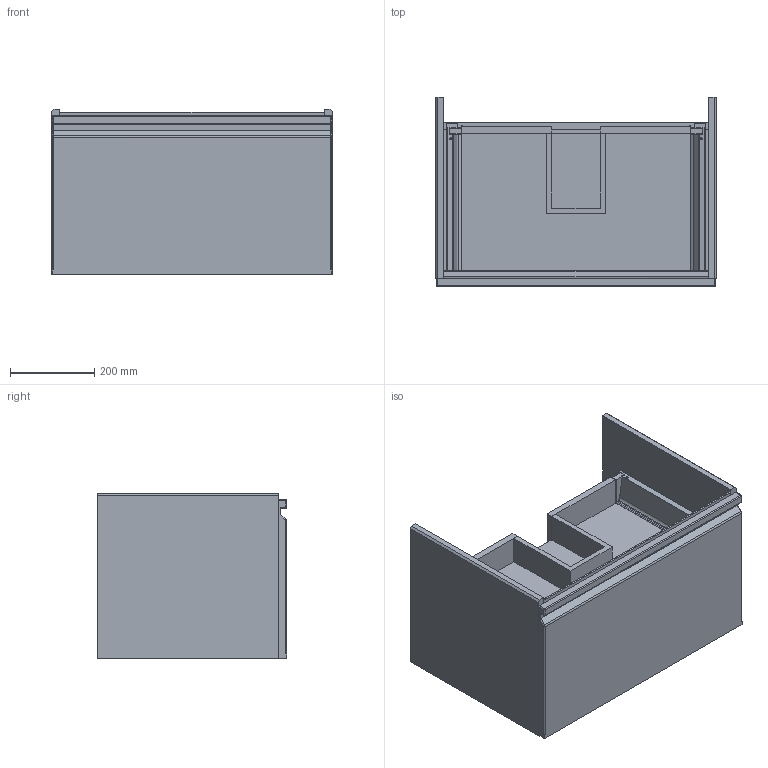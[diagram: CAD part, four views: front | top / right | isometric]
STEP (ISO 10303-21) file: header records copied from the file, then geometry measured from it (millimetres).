
FILE_DESCRIPTION(/* description */ (''),/* implementation_level */ '2;1');
FILE_NAME(/* name */ '3DB9F6~1',/* time_stamp */ '2018-05-14T09:08:57+02:00',/* author */ (''),/* organization */ (''),/* preprocessor_version */ 'ST-DEVELOPER v15',/* originating_system */ '',/* authorisation */ '');
FILE_SCHEMA (('AUTOMOTIVE_DESIGN'));
Length unit declared in the file: millimetre
Products named in the file (28): Document; Parte292; Parte290; Parte280; Parte278; Parte276; Parte274; Parte272; Parte270; Parte268; Parte266; Parte264; Parte262; Parte260; Parte258; Parte256; Parte254; Parte244; Parte242; Parte240; Parte238; Parte236; Parte234; Parte232; Parte230; Parte228; Parte226; Parte224
Assembly tree (27 placements, depth 2):
  Document
    Parte292
    Parte290
    Parte280
    Parte278
    Parte276
    Parte274
    Parte272
    Parte270
    Parte268
    Parte266
    Parte264
    Parte262
    Parte260
    Parte258
    Parte256
    Parte254
    Parte244
    Parte242
    Parte240
    Parte238
    Parte236
    Parte234
    Parte232
    Parte230
    Parte228
    Parte226
    Parte224
Bounding box: 665 x 450 x 392 mm (x, y, z)
Volume: 27181975.2 mm3; surface area: 3795945.6 mm2
Topology: 27 solids, 27 shells, 859 faces, 2359 edges, 1590 vertices
Faces by surface type: plane 612, bspline 247
Entity records: 29333 total; most frequent: CARTESIAN_POINT 13160, ORIENTED_EDGE 4710, EDGE_CURVE 2355, B_SPLINE_CURVE_WITH_KNOTS 1787, VERTEX_POINT 1590, EDGE_LOOP 967, ADVANCED_FACE 859, FACE_OUTER_BOUND 859
